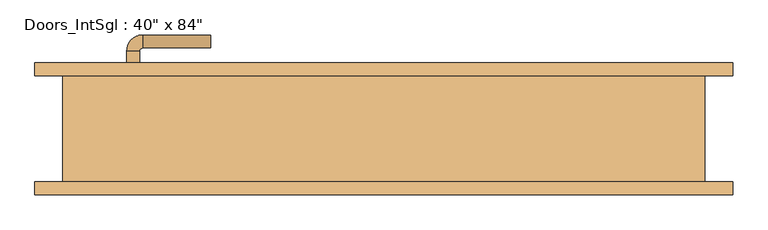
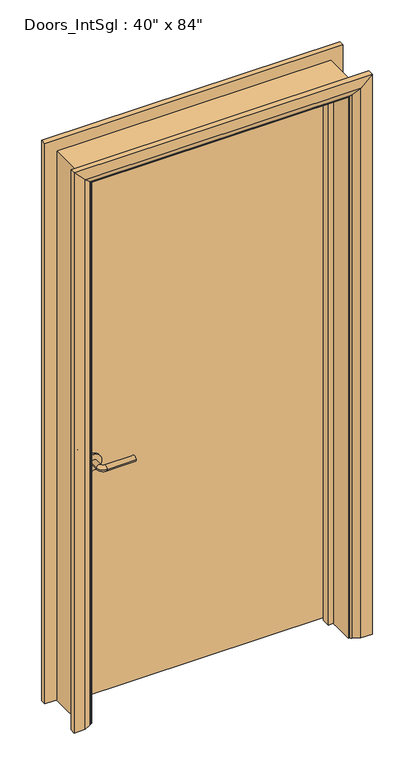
"""IFC4 building model written with IfcOpenShell, lengths in millimetres: door geometry."""

from ifc_helpers import new_model, si_unit, point, frame, frame_2d, origin, place, context, project, spatial, polyline, circle_curve, ellipse_curve, trimmed, segment, composite_curve, outline, extrude, faceted_brep, source, transform, mapped, element, save
from ifc_brep_helpers import plane_surface, cylinder_surface, revolved_surface, advanced_brep


def door_318d07ba(model_context):
    return source(origin(), model_context, "Body", "SolidModel", [
        advanced_brep(
        [(-398.0, 36.0, 900.0), (-378.0, 36.0, 900.0), (-378.0, 6.0, 900.0), (-398.0, 6.0, 900.0), (-373.0, 1.0, 900.0), (-373.0, -19.0, 900.0), (-268.0, -19.0, 900.0), (-268.0, 1.0, 900.0)],
        [
            (0, 1, circle_curve(frame((-388.0, 36.0, 900.0), z_axis=(0.0, 1.0, 0.0), x_axis=(1.0, 0.0, 0.0)), 10.0)),
            (1, 0, circle_curve(frame((-388.0, 36.0, 900.0), z_axis=(0.0, 1.0, 0.0), x_axis=(1.0, 0.0, 0.0)), 10.0)),
            (1, 2),
            (2, 3, circle_curve(frame((-388.0, 6.0, 900.0), z_axis=(0.0, 1.0, 0.0), x_axis=(1.0, 0.0, 0.0)), 10.0)),
            (3, 0),
            (3, 2, circle_curve(frame((-388.0, 6.0, 900.0), z_axis=(0.0, 1.0, 0.0), x_axis=(1.0, 0.0, 0.0)), 10.0)),
            (4, 5, circle_curve(frame((-373.0, -9.0, 900.0), z_axis=(-1.0, 0.0, 0.0), x_axis=(0.0, 1.0, 0.0)), 10.0)),
            (5, 3, circle_curve(frame((-373.0, 6.0, 900.0), z_axis=(0.0, 0.0, -1.0), x_axis=(-1.0, 0.0, 0.0)), 25.0)),
            (2, 4, circle_curve(frame((-373.0, 6.0, 900.0), z_axis=(0.0, 0.0, 1.0), x_axis=(-1.0, 0.0, 0.0)), 5.0)),
            (5, 4, circle_curve(frame((-373.0, -9.0, 900.0), z_axis=(-1.0, 0.0, 0.0), x_axis=(0.0, 1.0, 0.0)), 10.0)),
            (6, 7, circle_curve(frame((-268.0, -9.0, 900.0), z_axis=(1.0, 0.0, 0.0), x_axis=(0.0, 1.0, 0.0)), 10.0)),
            (7, 6, circle_curve(frame((-268.0, -9.0, 900.0), z_axis=(1.0, 0.0, 0.0), x_axis=(0.0, 1.0, 0.0)), 10.0)),
            (4, 7),
            (6, 5),
        ],
        [
            plane_surface(frame((-388.0, 36.0, 900.0), z_axis=(0.0, 1.0, 0.0), x_axis=(0.0, 0.0, 1.0))),
            cylinder_surface(frame((-388.0, 36.0, 900.0), z_axis=(0.0, 1.0, 0.0), x_axis=(1.0, 0.0, 0.0)), 10.0),
            revolved_surface(trimmed(ellipse_curve(frame((-388.0, 6.0, 900.0), z_axis=(0.0, -1.0, 0.0), x_axis=(1.0, 0.0, 0.0)), 10.0, 10.0), [point((-398.0, 6.0, 900.0))], [point((-378.0, 6.0, 900.0))], True, "CARTESIAN"), (-373.0, 6.0, 900.0), (0.0, 0.0, -1.0)),
            revolved_surface(trimmed(ellipse_curve(frame((-388.0, 6.0, 900.0), z_axis=(0.0, -1.0, 0.0), x_axis=(1.0, 0.0, 0.0)), 10.0, 10.0), [point((-378.0, 6.0, 900.0))], [point((-398.0, 6.0, 900.0))], True, "CARTESIAN"), (-373.0, 6.0, 900.0), (0.0, 0.0, -1.0)),
            plane_surface(frame((-268.0, -9.0, 900.0), z_axis=(1.0, 0.0, 0.0), x_axis=(0.0, 0.0, 1.0))),
            cylinder_surface(frame((-373.0, -9.0, 900.0), z_axis=(-1.0, 0.0, 0.0), x_axis=(0.0, 1.0, 0.0)), 10.0),
        ],
        [
            (0, [[1, 2]]),
            (1, [[3, 4, 5, -2]]),
            (1, [[-5, 6, -3, -1]]),
            (2, [[7, 8, -4, 9]]),
            (3, [[10, -9, -6, -8]]),
            (4, [[11, 12]]),
            (5, [[13, -11, 14, -7]]),
            (5, [[-14, -12, -13, -10]]),
        ],
    ),
        extrude(outline(composite_curve([segment(trimmed(circle_curve(frame_2d((900.0, -390.5)), 30.0), [point((900.0, -420.5))], [point((900.0, -360.5))], False, "CARTESIAN"), True, "CONTINUOUS"), segment(trimmed(circle_curve(frame_2d((900.0, -390.5)), 30.0), [point((900.0, -360.5))], [point((900.0, -420.5))], False, "CARTESIAN"), True, "CONTINUOUS")], self_intersect=False)), frame((0.0, 36.0, 0.0), z_axis=(0.0, 1.0, 0.0), x_axis=(0.0, 0.0, 1.0)), (0.0, 0.0, 1.0), 8.0),
        advanced_brep(
        [(-398.0, 90.0, 900.0), (-378.0, 90.0, 900.0), (-398.0, 120.0, 900.0), (-378.0, 120.0, 900.0), (-373.0, 125.0, 900.0), (-373.0, 145.0, 900.0), (-268.0, 145.0, 900.0), (-268.0, 125.0, 900.0)],
        [
            (0, 1, circle_curve(frame((-388.0, 90.0, 900.0), z_axis=(0.0, -1.0, 0.0), x_axis=(1.0, 0.0, 0.0)), 10.0)),
            (1, 0, circle_curve(frame((-388.0, 90.0, 900.0), z_axis=(0.0, -1.0, 0.0), x_axis=(1.0, 0.0, 0.0)), 10.0)),
            (0, 2),
            (2, 3, circle_curve(frame((-388.0, 120.0, 900.0), z_axis=(0.0, -1.0, 0.0), x_axis=(1.0, 0.0, 0.0)), 10.0)),
            (3, 1),
            (3, 2, circle_curve(frame((-388.0, 120.0, 900.0), z_axis=(0.0, -1.0, 0.0), x_axis=(1.0, 0.0, 0.0)), 10.0)),
            (4, 3, circle_curve(frame((-373.0, 120.0, 900.0), z_axis=(0.0, 0.0, 1.0), x_axis=(-1.0, 0.0, 0.0)), 5.0)),
            (2, 5, circle_curve(frame((-373.0, 120.0, 900.0), z_axis=(0.0, 0.0, -1.0), x_axis=(-1.0, 0.0, 0.0)), 25.0)),
            (5, 4, circle_curve(frame((-373.0, 135.0, 900.0), z_axis=(-1.0, 0.0, 0.0), x_axis=(0.0, -1.0, 0.0)), 10.0)),
            (4, 5, circle_curve(frame((-373.0, 135.0, 900.0), z_axis=(-1.0, 0.0, 0.0), x_axis=(0.0, -1.0, 0.0)), 10.0)),
            (6, 7, circle_curve(frame((-268.0, 135.0, 900.0), z_axis=(1.0, 0.0, 0.0), x_axis=(0.0, -1.0, 0.0)), 10.0)),
            (7, 6, circle_curve(frame((-268.0, 135.0, 900.0), z_axis=(1.0, 0.0, 0.0), x_axis=(0.0, -1.0, 0.0)), 10.0)),
            (5, 6),
            (7, 4),
        ],
        [
            plane_surface(frame((-388.0, 90.0, 900.0), z_axis=(0.0, -1.0, 0.0), x_axis=(0.0, 0.0, 1.0))),
            cylinder_surface(frame((-388.0, 90.0, 900.0), z_axis=(0.0, -1.0, 0.0), x_axis=(1.0, 0.0, 0.0)), 10.0),
            revolved_surface(trimmed(ellipse_curve(frame((-388.0, 120.0, 900.0), z_axis=(0.0, -1.0, 0.0), x_axis=(1.0, 0.0, 0.0)), 10.0, 10.0), [point((-398.0, 120.0, 900.0))], [point((-378.0, 120.0, 900.0))], True, "CARTESIAN"), (-373.0, 120.0, 900.0), (0.0, 0.0, -1.0)),
            revolved_surface(trimmed(ellipse_curve(frame((-388.0, 120.0, 900.0), z_axis=(0.0, -1.0, 0.0), x_axis=(1.0, 0.0, 0.0)), 10.0, 10.0), [point((-378.0, 120.0, 900.0))], [point((-398.0, 120.0, 900.0))], True, "CARTESIAN"), (-373.0, 120.0, 900.0), (0.0, 0.0, -1.0)),
            plane_surface(frame((-268.0, 135.0, 900.0), z_axis=(1.0, 0.0, 0.0), x_axis=(0.0, 0.0, 1.0))),
            cylinder_surface(frame((-373.0, 135.0, 900.0), z_axis=(-1.0, 0.0, 0.0), x_axis=(0.0, -1.0, 0.0)), 10.0),
        ],
        [
            (0, [[1, 2]]),
            (1, [[-1, 3, 4, 5]]),
            (1, [[-2, -5, 6, -3]]),
            (2, [[7, -4, 8, 9]]),
            (3, [[-8, -6, -7, 10]]),
            (4, [[11, 12]]),
            (5, [[-9, 13, -12, 14]]),
            (5, [[-10, -14, -11, -13]]),
        ],
    ),
        extrude(outline(composite_curve([segment(trimmed(circle_curve(frame_2d((900.0, -390.5)), 30.0), [point((900.0, -420.5))], [point((900.0, -360.5))], False, "CARTESIAN"), True, "CONTINUOUS"), segment(trimmed(circle_curve(frame_2d((900.0, -390.5)), 30.0), [point((900.0, -360.5))], [point((900.0, -420.5))], False, "CARTESIAN"), True, "CONTINUOUS")], self_intersect=False)), frame((0.0, 82.0, 0.0), z_axis=(0.0, 1.0, 0.0), x_axis=(0.0, 0.0, 1.0)), (0.0, 0.0, 1.0), 8.0),
        extrude(outline(polyline([(463.0, 44.0), (-463.0, 44.0), (-463.0, 82.0), (463.0, 82.0), (463.0, 44.0)])), frame((0.0, 0.0, 8.0), z_axis=(0.0, 0.0, 1.0), x_axis=(1.0, 0.0, 0.0)), (0.0, 0.0, 1.0), 2060.0),
        advanced_brep(
        [(540.0, 102.0, 0.0), (540.0, 82.0, 0.0), (470.0, 82.0, 0.0), (474.0, 88.0, 0.0), (500.0, 102.0, 0.0), (540.0, 102.0, 2145.0), (540.0, 82.0, 2145.0), (-540.0, 82.0, 2145.0), (-540.0, 82.0, 0.0), (-470.0, 82.0, 0.0), (-470.0, 82.0, 2075.0), (470.0, 82.0, 2075.0), (474.0, 88.0, 2079.0), (500.0, 102.0, 2105.0), (-500.0, 102.0, 2105.0), (-500.0, 102.0, 0.0), (-540.0, 102.0, 0.0), (-540.0, 102.0, 2145.0), (-474.0, 88.0, 2079.0), (-474.0, 88.0, 0.0)],
        [
            (0, 1),
            (1, 2),
            (2, 3, circle_curve(frame((478.0, 81.0, 0.0), z_axis=(0.0, 0.0, -1.0), x_axis=(1.0, 0.0, 0.0)), 8.0622577)),
            (3, 4),
            (4, 0),
            (0, 5),
            (5, 6),
            (6, 1),
            (6, 7),
            (7, 8),
            (8, 9),
            (9, 10),
            (10, 11),
            (11, 2),
            (11, 12, ellipse_curve(frame((478.0, 81.0, 2083.0), z_axis=(0.7071067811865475, 0.0, -0.7071067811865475), x_axis=(-0.7071067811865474, 0.0, -0.7071067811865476)), 11.4017543, 8.0622577)),
            (12, 3),
            (12, 13),
            (13, 4),
            (13, 14),
            (14, 15),
            (15, 16),
            (16, 17),
            (17, 5),
            (17, 7),
            (10, 18, ellipse_curve(frame((-478.0, 81.0, 2083.0), z_axis=(0.7071067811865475, 0.0, 0.7071067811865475), x_axis=(0.7071067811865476, 0.0, -0.7071067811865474)), 11.4017543, 8.0622577)),
            (18, 12),
            (18, 14),
            (15, 19),
            (19, 9, circle_curve(frame((-478.0, 81.0, 0.0), z_axis=(0.0, 0.0, -1.0), x_axis=(-1.0, 0.0, 0.0)), 8.0622577)),
            (8, 16),
            (19, 18),
        ],
        [
            plane_surface(frame((470.0, 82.0, 0.0), z_axis=(0.0, 0.0, -1.0), x_axis=(0.0, -1.0, 0.0))),
            plane_surface(frame((540.0, 102.0, 0.0), z_axis=(1.0, 0.0, 0.0), x_axis=(0.0, 0.0, 1.0))),
            plane_surface(frame((540.0, 82.0, 0.0), z_axis=(0.0, -1.0, 0.0), x_axis=(0.0, 0.0, 1.0))),
            cylinder_surface(frame((478.0, 81.0, 0.0), z_axis=(0.0, 0.0, -1.0), x_axis=(1.0, 0.0, 0.0)), 8.0622577),
            plane_surface(frame((474.0, 88.0, 0.0), z_axis=(-0.4740998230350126, 0.880471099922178, 0.0), x_axis=(0.0, 0.0, 1.0))),
            plane_surface(frame((500.0, 102.0, 0.0), z_axis=(0.0, 1.0, 0.0), x_axis=(0.0, 0.0, 1.0))),
            plane_surface(frame((540.0, 102.0, 2145.0), z_axis=(0.0, 0.0, 1.0), x_axis=(-1.0, 0.0, 0.0))),
            cylinder_surface(frame((470.0, 81.0, 2083.0), z_axis=(1.0, 0.0, 0.0), x_axis=(0.0, 0.0, 1.0)), 8.0622577),
            plane_surface(frame((474.0, 88.0, 2079.0), z_axis=(0.0, 0.8804710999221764, -0.4740998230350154), x_axis=(-1.0, 0.0, 0.0))),
            plane_surface(frame((-470.0, 82.0, 0.0), z_axis=(0.0, 0.0, -1.0), x_axis=(0.0, -1.0, 0.0))),
            plane_surface(frame((-540.0, 102.0, 2145.0), z_axis=(-1.0, 0.0, 0.0), x_axis=(0.0, 0.0, -1.0))),
            cylinder_surface(frame((-478.0, 81.0, 2075.0), z_axis=(0.0, 0.0, 1.0), x_axis=(-1.0, 0.0, 0.0)), 8.0622577),
            plane_surface(frame((-474.0, 88.0, 2079.0), z_axis=(0.47409982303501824, 0.8804710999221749, 0.0), x_axis=(0.0, 0.0, -1.0))),
        ],
        [
            (0, [[1, 2, 3, 4, 5]]),
            (1, [[-1, 6, 7, 8]]),
            (2, [[-2, -8, 9, 10, 11, 12, 13, 14]]),
            (3, [[-3, -14, 15, 16]]),
            (4, [[-4, -16, 17, 18]]),
            (5, [[-5, -18, 19, 20, 21, 22, 23, -6]]),
            (6, [[-7, -23, 24, -9]]),
            (7, [[-15, -13, 25, 26]]),
            (8, [[-17, -26, 27, -19]]),
            (9, [[-21, 28, 29, -11, 30]]),
            (10, [[-24, -22, -30, -10]]),
            (11, [[-25, -12, -29, 31]]),
            (12, [[-27, -31, -28, -20]]),
        ],
    ),
        extrude(outline(polyline([(0.0, -465.0), (0.0, -446.0), (2051.0, -446.0), (2051.0, 446.0), (0.0, 446.0), (0.0, 465.0), (2070.0, 465.0), (2070.0, -465.0), (0.0, -465.0)])), frame((0.0, 10.0, 0.0), z_axis=(0.0, 1.0, 0.0), x_axis=(0.0, 0.0, 1.0)), (0.0, 0.0, 1.0), 32.0),
        advanced_brep(
        [(-540.0, -102.0, 0.0), (-540.0, -82.0, 0.0), (-470.0, -82.0, 0.0), (-474.0, -88.0, 0.0), (-500.0, -102.0, 0.0), (-540.0, -102.0, 2145.0), (-540.0, -82.0, 2145.0), (-470.0, -82.0, 2075.0), (-474.0, -88.0, 2079.0), (-500.0, -102.0, 2105.0), (540.0, -102.0, 2145.0), (540.0, -82.0, 2145.0), (470.0, -82.0, 2075.0), (474.0, -88.0, 2079.0), (500.0, -102.0, 2105.0), (540.0, -102.0, 0.0), (500.0, -102.0, 0.0), (474.0, -88.0, 0.0), (470.0, -82.0, 0.0), (540.0, -82.0, 0.0)],
        [
            (0, 1),
            (1, 2),
            (2, 3, circle_curve(frame((-478.0, -81.0, 0.0), z_axis=(0.0, 0.0, -1.0), x_axis=(-1.0, 0.0, 0.0)), 8.0622577)),
            (3, 4),
            (4, 0),
            (0, 5),
            (5, 6),
            (6, 1),
            (6, 7),
            (7, 2),
            (7, 8, ellipse_curve(frame((-478.0, -81.0, 2083.0), z_axis=(-0.7071067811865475, 0.0, -0.7071067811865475), x_axis=(0.7071067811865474, 0.0, -0.7071067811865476)), 11.4017543, 8.0622577)),
            (8, 3),
            (8, 9),
            (9, 4),
            (9, 5),
            (5, 10),
            (10, 11),
            (11, 6),
            (11, 12),
            (12, 7),
            (12, 13, ellipse_curve(frame((478.0, -81.0, 2083.0), z_axis=(-0.7071067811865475, 0.0, 0.7071067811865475), x_axis=(-0.7071067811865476, 0.0, -0.7071067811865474)), 11.4017543, 8.0622577)),
            (13, 8),
            (13, 14),
            (14, 9),
            (14, 10),
            (15, 16),
            (16, 17),
            (17, 18, circle_curve(frame((478.0, -81.0, 0.0), z_axis=(0.0, 0.0, -1.0), x_axis=(1.0, 0.0, 0.0)), 8.0622577)),
            (18, 19),
            (19, 15),
            (10, 15),
            (19, 11),
            (18, 12),
            (17, 13),
            (16, 14),
        ],
        [
            plane_surface(frame((-470.0, -154.8010989, 0.0), z_axis=(0.0, 0.0, -1.0), x_axis=(1.0, 0.0, 0.0))),
            plane_surface(frame((-540.0, -102.0, 0.0), z_axis=(-1.0, 0.0, 0.0), x_axis=(0.0, 0.0, 1.0))),
            plane_surface(frame((-540.0, -82.0, 0.0), z_axis=(0.0, 1.0, 0.0), x_axis=(0.0, 0.0, 1.0))),
            cylinder_surface(frame((-478.0, -81.0, 0.0), z_axis=(0.0, 0.0, -1.0), x_axis=(-1.0, 0.0, 0.0)), 8.0622577),
            plane_surface(frame((-474.0, -88.0, 0.0), z_axis=(0.4740998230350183, -0.8804710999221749, 0.0), x_axis=(0.0, 0.0, 1.0))),
            plane_surface(frame((-500.0, -102.0, 0.0), z_axis=(0.0, -1.0, 0.0), x_axis=(0.0, 0.0, 1.0))),
            plane_surface(frame((-540.0, -102.0, 2145.0), z_axis=(0.0, 0.0, 1.0), x_axis=(1.0, 0.0, 0.0))),
            plane_surface(frame((-540.0, -82.0, 2145.0), z_axis=(0.0, 1.0, 0.0), x_axis=(1.0, 0.0, 0.0))),
            cylinder_surface(frame((-470.0, -81.0, 2083.0), z_axis=(-1.0, 0.0, 0.0), x_axis=(0.0, 0.0, 1.0)), 8.0622577),
            plane_surface(frame((-474.0, -88.0, 2079.0), z_axis=(0.0, -0.8804710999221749, -0.4740998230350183), x_axis=(1.0, 0.0, 0.0))),
            plane_surface(frame((-500.0, -102.0, 2105.0), z_axis=(0.0, -1.0, 0.0), x_axis=(1.0, 0.0, 0.0))),
            plane_surface(frame((470.0, -154.8010989, 0.0), z_axis=(0.0, 0.0, -1.0), x_axis=(-1.0, 0.0, 0.0))),
            plane_surface(frame((540.0, -102.0, 2145.0), z_axis=(1.0, 0.0, 0.0), x_axis=(0.0, 0.0, -1.0))),
            plane_surface(frame((540.0, -82.0, 2145.0), z_axis=(0.0, 1.0, 0.0), x_axis=(0.0, 0.0, -1.0))),
            cylinder_surface(frame((478.0, -81.0, 2075.0), z_axis=(0.0, 0.0, 1.0), x_axis=(1.0, 0.0, 0.0)), 8.0622577),
            plane_surface(frame((474.0, -88.0, 2079.0), z_axis=(-0.4740998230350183, -0.8804710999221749, 0.0), x_axis=(0.0, 0.0, -1.0))),
            plane_surface(frame((500.0, -102.0, 2105.0), z_axis=(0.0, -1.0, 0.0), x_axis=(0.0, 0.0, -1.0))),
        ],
        [
            (0, [[1, 2, 3, 4, 5]]),
            (1, [[-1, 6, 7, 8]]),
            (2, [[-2, -8, 9, 10]]),
            (3, [[-3, -10, 11, 12]]),
            (4, [[-4, -12, 13, 14]]),
            (5, [[-5, -14, 15, -6]]),
            (6, [[-7, 16, 17, 18]]),
            (7, [[-9, -18, 19, 20]]),
            (8, [[-11, -20, 21, 22]]),
            (9, [[-13, -22, 23, 24]]),
            (10, [[-15, -24, 25, -16]]),
            (11, [[26, 27, 28, 29, 30]]),
            (12, [[-17, 31, -30, 32]]),
            (13, [[-19, -32, -29, 33]]),
            (14, [[-21, -33, -28, 34]]),
            (15, [[-23, -34, -27, 35]]),
            (16, [[-25, -35, -26, -31]]),
        ],
    ),
        faceted_brep([(-465.0, 82.0, 0.0), (-465.0, -82.0, 0.0), (-497.0, -82.0, 0.0), (-497.0, 82.0, 0.0), (-465.0, 82.0, 2070.0), (-465.0, -82.0, 2070.0), (-497.0, -82.0, 2102.0), (-497.0, 82.0, 2102.0), (465.0, 82.0, 2070.0), (465.0, -82.0, 2070.0), (497.0, -82.0, 2102.0), (497.0, 82.0, 2102.0), (465.0, 82.0, 0.0), (497.0, 82.0, 0.0), (497.0, -82.0, 0.0), (465.0, -82.0, 0.0)], [[[0, 1, 2, 3]], [[1, 0, 4, 5]], [[2, 1, 5, 6]], [[3, 2, 6, 7]], [[0, 3, 7, 4]], [[5, 4, 8, 9]], [[6, 5, 9, 10]], [[7, 6, 10, 11]], [[4, 7, 11, 8]], [[12, 13, 14, 15]], [[9, 8, 12, 15]], [[10, 9, 15, 14]], [[11, 10, 14, 13]], [[8, 11, 13, 12]]]),
    ])


if __name__ == "__main__":
    model = new_model("IFC4")
    model_context = context("Model", 3, world=origin())
    ifc_project = project(units=[si_unit("LENGTHUNIT", "METRE", prefix="MILLI")], contexts=[model_context])
    site = spatial("IfcSite", under=ifc_project)
    building = spatial("IfcBuilding", under=site)
    placement = place(None, origin())
    door_shape = door_318d07ba(model_context)
    element("IfcDoor", 1, ObjectType="Doors_IntSgl : 40\" x 84\"", at=placement, inside=building, context=model_context, shape_type="MappedRepresentation", body=[
        mapped(door_shape, transform((0.0, 0.0, 0.0), x_axis=(1.0, 0.0, 0.0), y_axis=(0.0, 1.0, 0.0), z_axis=(0.0, 0.0, 1.0))),
    ])
    save(model, "model.ifc")
